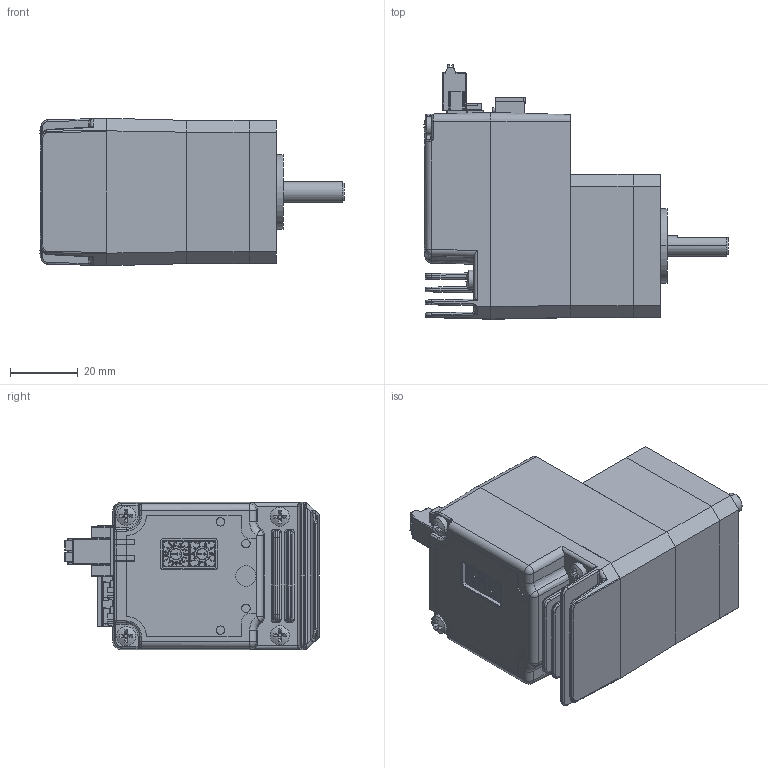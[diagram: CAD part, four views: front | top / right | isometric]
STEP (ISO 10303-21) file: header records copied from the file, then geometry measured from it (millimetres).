
FILE_DESCRIPTION (( 'STEP AP214' ), '1' );
FILE_NAME ('TSM17-1CG夥厙.STEP', '2021-07-15T05:07:52', ( 'Windows User' ), ( 'P R C' ), 'SwSTEP 2.0', 'SolidWorks 2015', '' );
FILE_SCHEMA (( 'AUTOMOTIVE_DESIGN' ));
Length unit declared in the file: millimetre
Products named in the file (19): 2; 17; 15; 18; 8; 11; 9; 1; TSM17-1CG夥厙; 4; 7; 6; 12; 16; 10; 13; 5; 14; 3
Assembly tree (22 placements, depth 3):
  TSM17-1CG夥厙
    13
      15
      14
      17
      16
    12
    5
    3
    11
    10
    2  x2
    6  x2
    7  x2
    1
    4
    8
    18  x2
    9
Bounding box: 89.75 x 75.1 x 43.53 mm (x, y, z)
Volume: 89290.2 mm3; surface area: 64724.7 mm2
Topology: 21 solids, 31 shells, 3791 faces, 9702 edges, 6115 vertices
Faces by surface type: plane 2237, cylinder 879, bspline 384, torus 130, sphere 109, cone 52
Entity records: 141981 total; most frequent: CARTESIAN_POINT 35690, ORIENTED_EDGE 18298, DIRECTION 16905, EDGE_CURVE 9151, LINE 6451, VECTOR 6451, VERTEX_POINT 5821, AXIS2_PLACEMENT_3D 5227
